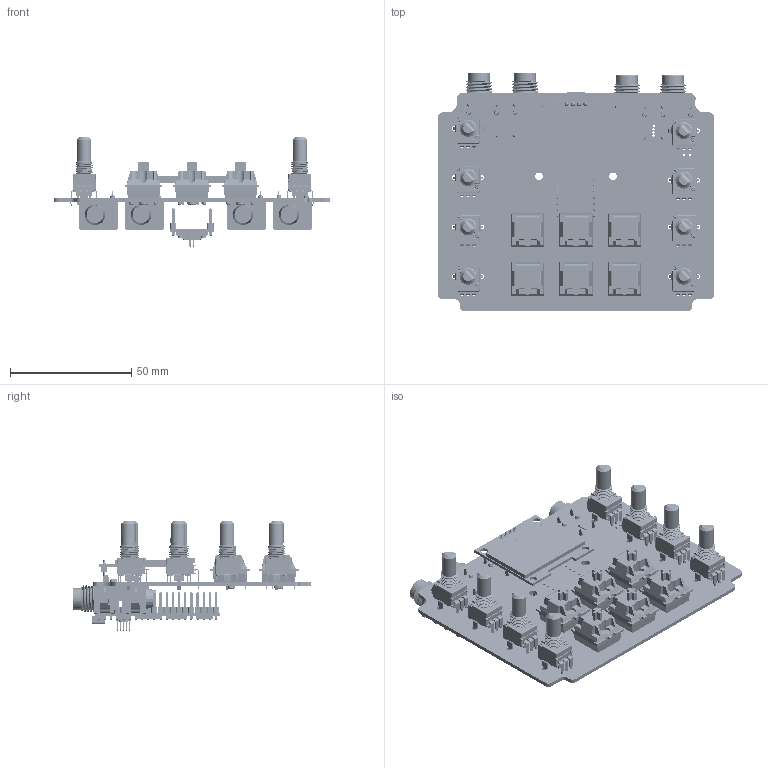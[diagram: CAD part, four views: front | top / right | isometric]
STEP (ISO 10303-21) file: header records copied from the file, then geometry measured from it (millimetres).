
FILE_DESCRIPTION(('Electronic assembly'),'2;1');
FILE_NAME('Board','2023-11-17T18:07:00',('An Author'),('A Company'), 'Open CASCADE STEP processor 6.9','horizon EDA','Unknown');
FILE_SCHEMA(('AUTOMOTIVE_DESIGN { 1 0 10303 214 1 1 1 1 }'));
Length unit declared in the file: millimetre
Products named in the file (235): daisyy-PCA; daisyy-PCB; daisyy-DS1; daisyy-DS1-1; daisyy-GAIN_; daisyy-GAIN_-1; daisyy-GAIN_-2; daisyy-GAIN_-3; daisyy-GAIN_-4; daisyy-GAIN_-5; daisyy-GAIN_-6; daisyy-GAIN_-7; daisyy-INPUT-L; daisyy-INPUT-L-1; daisyy-INPUT-R; daisyy-INPUT-R-1; daisyy-OUTPUT-L; daisyy-OUTPUT-L-1; daisyy-OUTPUT-R; daisyy-OUTPUT-R-1; daisyy-POT_1; daisyy-POT_1-1; daisyy-POT_1-2; daisyy-POT_1-3; daisyy-POT_1-4; daisyy-POT_1-5; daisyy-POT_1-6; daisyy-POT_1-7; daisyy-POT_2; daisyy-POT_2-1; daisyy-POT_2-2; daisyy-POT_2-3; daisyy-POT_2-4; daisyy-POT_2-5; daisyy-POT_2-6; daisyy-POT_2-7; daisyy-POT_3; daisyy-POT_3-1; daisyy-POT_3-2; daisyy-POT_3-3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
Assembly tree (234 placements, depth 3):
  daisyy-PCA
    daisyy-PCB
    daisyy-DS1
      daisyy-DS1-1
    daisyy-GAIN_
      daisyy-GAIN_-1
      daisyy-GAIN_-2
      daisyy-GAIN_-3
      daisyy-GAIN_-4
      daisyy-GAIN_-5
      daisyy-GAIN_-6
      daisyy-GAIN_-7
    daisyy-INPUT-L
      daisyy-INPUT-L-1
    daisyy-INPUT-R
      daisyy-INPUT-R-1
    daisyy-OUTPUT-L
      daisyy-OUTPUT-L-1
    daisyy-OUTPUT-R
      daisyy-OUTPUT-R-1
    daisyy-POT_1
      daisyy-POT_1-1
      daisyy-POT_1-2
      daisyy-POT_1-3
      daisyy-POT_1-4
      daisyy-POT_1-5
      daisyy-POT_1-6
      daisyy-POT_1-7
    daisyy-POT_2
      daisyy-POT_2-1
      daisyy-POT_2-2
      daisyy-POT_2-3
      daisyy-POT_2-4
      daisyy-POT_2-5
      daisyy-POT_2-6
      daisyy-POT_2-7
    daisyy-POT_3
      daisyy-POT_3-1
      daisyy-POT_3-2
      daisyy-POT_3-3
      daisyy-POT_3-4
      daisyy-POT_3-5
      daisyy-POT_3-6
      daisyy-POT_3-7
    daisyy-POT_4
      daisyy-POT_4-1
      daisyy-POT_4-2
      daisyy-POT_4-3
      daisyy-POT_4-4
      daisyy-POT_4-5
      daisyy-POT_4-6
      daisyy-POT_4-7
    daisyy-POT_5
      daisyy-POT_5-1
      daisyy-POT_5-2
      daisyy-POT_5-3
      daisyy-POT_5-4
      daisyy-POT_5-5
      daisyy-POT_5-6
      daisyy-POT_5-7
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Bounding box: 114 x 98.43 x 45.23 mm (x, y, z)
Volume: 48839.4 mm3; surface area: 69807.1 mm2
Topology: 267 solids, 267 shells, 9216 faces, 26318 edges, 20788 vertices
Faces by surface type: plane 4566, bspline 3331, cylinder 1165, cone 138, sphere 12, torus 4
Full cylindrical faces by diameter (mm): 0.85 x40, 0.95 x3, 0.955 x1, 1 x4, 1.1 x27, 1.5 x12, 1.6 x28, 1.7 x12, 1.9 x8, 2 x24, 2.4 x4, 3.5 x2, 3.85 x6, 3.95 x4, 4 x6, 6.43 x4, 9 x4
Entity records: 843429 total; most frequent: CARTESIAN_POINT 382155, DIRECTION 70349, LINE 49207, VECTOR 49207, ORIENTED_EDGE 46108, PCURVE 46108, DEFINITIONAL_REPRESENTATION 46108, EDGE_CURVE 23054
